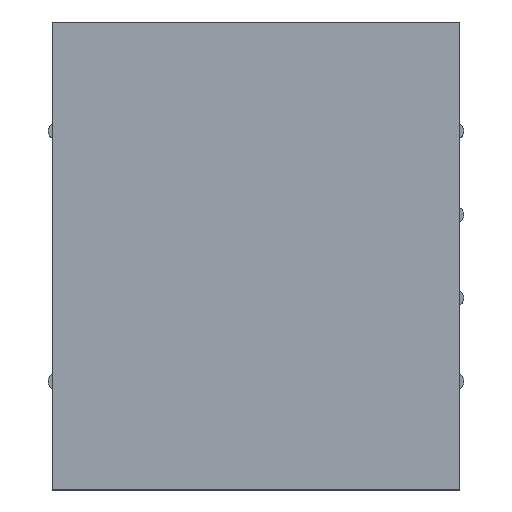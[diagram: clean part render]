
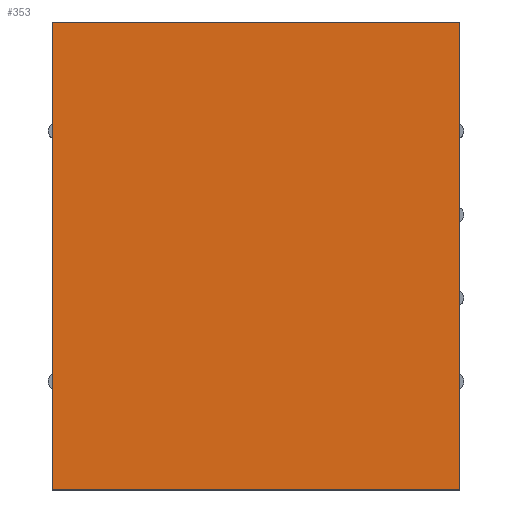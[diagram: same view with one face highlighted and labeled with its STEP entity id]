
A CAD part, top view. The second image highlights one B-rep face of the part: STEP entity #353.
In plain terms, the highlighted planar face has unit normal (0, 0, 1).
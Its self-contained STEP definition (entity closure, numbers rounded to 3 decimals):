
#39 = VERTEX_POINT('',#40);
#40 = CARTESIAN_POINT('',(-0.26,8.255,32.1));
#47 = PLANE('',#48);
#48 = AXIS2_PLACEMENT_3D('',#49,#50,#51);
#49 = CARTESIAN_POINT('',(-0.26,8.255,0.));
#50 = DIRECTION('',(0.,1.,0.));
#51 = DIRECTION('',(1.,0.,0.));
#59 = PLANE('',#60);
#60 = AXIS2_PLACEMENT_3D('',#61,#62,#63);
#61 = CARTESIAN_POINT('',(-0.26,-27.305,0.));
#62 = DIRECTION('',(-1.,0.,0.));
#63 = DIRECTION('',(0.,1.,0.));
#71 = EDGE_CURVE('',#39,#72,#74,.T.);
#72 = VERTEX_POINT('',#73);
#73 = CARTESIAN_POINT('',(30.74,8.255,32.1));
#74 = SURFACE_CURVE('',#75,(#79,#86),.PCURVE_S1.);
#75 = LINE('',#76,#77);
#76 = CARTESIAN_POINT('',(-0.26,8.255,32.1));
#77 = VECTOR('',#78,1.);
#78 = DIRECTION('',(1.,0.,0.));
#79 = PCURVE('',#47,#80);
#80 = DEFINITIONAL_REPRESENTATION('',(#81),#85);
#81 = LINE('',#82,#83);
#82 = CARTESIAN_POINT('',(0.,-32.1));
#83 = VECTOR('',#84,1.);
#84 = DIRECTION('',(1.,0.));
#85 = ( GEOMETRIC_REPRESENTATION_CONTEXT(2) 
PARAMETRIC_REPRESENTATION_CONTEXT() REPRESENTATION_CONTEXT('2D SPACE',''
  ) );
#86 = PCURVE('',#87,#92);
#87 = PLANE('',#88);
#88 = AXIS2_PLACEMENT_3D('',#89,#90,#91);
#89 = CARTESIAN_POINT('',(15.24,-9.525,32.1));
#90 = DIRECTION('',(0.,-0.,-1.));
#91 = DIRECTION('',(-1.,0.,0.));
#92 = DEFINITIONAL_REPRESENTATION('',(#93),#97);
#93 = LINE('',#94,#95);
#94 = CARTESIAN_POINT('',(15.5,17.78));
#95 = VECTOR('',#96,1.);
#96 = DIRECTION('',(-1.,0.));
#97 = ( GEOMETRIC_REPRESENTATION_CONTEXT(2) 
PARAMETRIC_REPRESENTATION_CONTEXT() REPRESENTATION_CONTEXT('2D SPACE',''
  ) );
#115 = PLANE('',#116);
#116 = AXIS2_PLACEMENT_3D('',#117,#118,#119);
#117 = CARTESIAN_POINT('',(30.74,8.255,0.));
#118 = DIRECTION('',(1.,0.,-0.));
#119 = DIRECTION('',(0.,-1.,0.));
#157 = EDGE_CURVE('',#72,#158,#160,.T.);
#158 = VERTEX_POINT('',#159);
#159 = CARTESIAN_POINT('',(30.74,-27.305,32.1));
#160 = SURFACE_CURVE('',#161,(#165,#172),.PCURVE_S1.);
#161 = LINE('',#162,#163);
#162 = CARTESIAN_POINT('',(30.74,8.255,32.1));
#163 = VECTOR('',#164,1.);
#164 = DIRECTION('',(0.,-1.,0.));
#165 = PCURVE('',#115,#166);
#166 = DEFINITIONAL_REPRESENTATION('',(#167),#171);
#167 = LINE('',#168,#169);
#168 = CARTESIAN_POINT('',(0.,-32.1));
#169 = VECTOR('',#170,1.);
#170 = DIRECTION('',(1.,0.));
#171 = ( GEOMETRIC_REPRESENTATION_CONTEXT(2) 
PARAMETRIC_REPRESENTATION_CONTEXT() REPRESENTATION_CONTEXT('2D SPACE',''
  ) );
#172 = PCURVE('',#87,#173);
#173 = DEFINITIONAL_REPRESENTATION('',(#174),#178);
#174 = LINE('',#175,#176);
#175 = CARTESIAN_POINT('',(-15.5,17.78));
#176 = VECTOR('',#177,1.);
#177 = DIRECTION('',(0.,-1.));
#178 = ( GEOMETRIC_REPRESENTATION_CONTEXT(2) 
PARAMETRIC_REPRESENTATION_CONTEXT() REPRESENTATION_CONTEXT('2D SPACE',''
  ) );
#196 = PLANE('',#197);
#197 = AXIS2_PLACEMENT_3D('',#198,#199,#200);
#198 = CARTESIAN_POINT('',(30.74,-27.305,0.));
#199 = DIRECTION('',(0.,-1.,0.));
#200 = DIRECTION('',(-1.,0.,0.));
#233 = EDGE_CURVE('',#158,#234,#236,.T.);
#234 = VERTEX_POINT('',#235);
#235 = CARTESIAN_POINT('',(-0.26,-27.305,32.1));
#236 = SURFACE_CURVE('',#237,(#241,#248),.PCURVE_S1.);
#237 = LINE('',#238,#239);
#238 = CARTESIAN_POINT('',(30.74,-27.305,32.1));
#239 = VECTOR('',#240,1.);
#240 = DIRECTION('',(-1.,0.,0.));
#241 = PCURVE('',#196,#242);
#242 = DEFINITIONAL_REPRESENTATION('',(#243),#247);
#243 = LINE('',#244,#245);
#244 = CARTESIAN_POINT('',(0.,-32.1));
#245 = VECTOR('',#246,1.);
#246 = DIRECTION('',(1.,0.));
#247 = ( GEOMETRIC_REPRESENTATION_CONTEXT(2) 
PARAMETRIC_REPRESENTATION_CONTEXT() REPRESENTATION_CONTEXT('2D SPACE',''
  ) );
#248 = PCURVE('',#87,#249);
#249 = DEFINITIONAL_REPRESENTATION('',(#250),#254);
#250 = LINE('',#251,#252);
#251 = CARTESIAN_POINT('',(-15.5,-17.78));
#252 = VECTOR('',#253,1.);
#253 = DIRECTION('',(1.,0.));
#254 = ( GEOMETRIC_REPRESENTATION_CONTEXT(2) 
PARAMETRIC_REPRESENTATION_CONTEXT() REPRESENTATION_CONTEXT('2D SPACE',''
  ) );
#304 = EDGE_CURVE('',#234,#39,#305,.T.);
#305 = SURFACE_CURVE('',#306,(#310,#317),.PCURVE_S1.);
#306 = LINE('',#307,#308);
#307 = CARTESIAN_POINT('',(-0.26,-27.305,32.1));
#308 = VECTOR('',#309,1.);
#309 = DIRECTION('',(0.,1.,0.));
#310 = PCURVE('',#59,#311);
#311 = DEFINITIONAL_REPRESENTATION('',(#312),#316);
#312 = LINE('',#313,#314);
#313 = CARTESIAN_POINT('',(0.,-32.1));
#314 = VECTOR('',#315,1.);
#315 = DIRECTION('',(1.,0.));
#316 = ( GEOMETRIC_REPRESENTATION_CONTEXT(2) 
PARAMETRIC_REPRESENTATION_CONTEXT() REPRESENTATION_CONTEXT('2D SPACE',''
  ) );
#317 = PCURVE('',#87,#318);
#318 = DEFINITIONAL_REPRESENTATION('',(#319),#323);
#319 = LINE('',#320,#321);
#320 = CARTESIAN_POINT('',(15.5,-17.78));
#321 = VECTOR('',#322,1.);
#322 = DIRECTION('',(0.,1.));
#323 = ( GEOMETRIC_REPRESENTATION_CONTEXT(2) 
PARAMETRIC_REPRESENTATION_CONTEXT() REPRESENTATION_CONTEXT('2D SPACE',''
  ) );
#353 = ADVANCED_FACE('',(#354),#87,.F.);
#354 = FACE_BOUND('',#355,.F.);
#355 = EDGE_LOOP('',(#356,#357,#358,#359));
#356 = ORIENTED_EDGE('',*,*,#71,.T.);
#357 = ORIENTED_EDGE('',*,*,#157,.T.);
#358 = ORIENTED_EDGE('',*,*,#233,.T.);
#359 = ORIENTED_EDGE('',*,*,#304,.T.);
